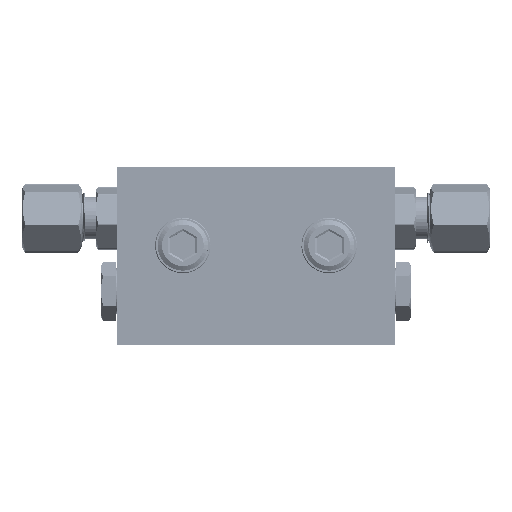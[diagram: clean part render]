
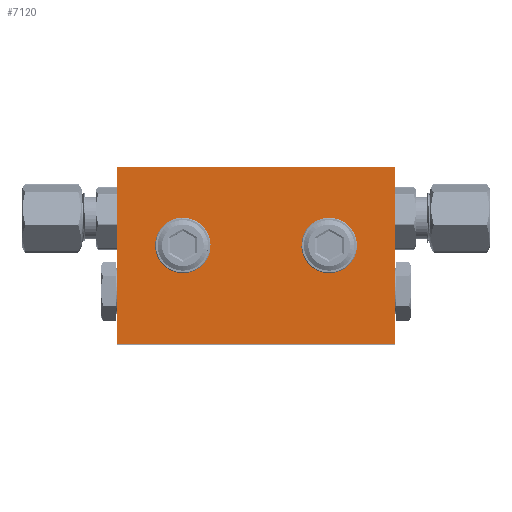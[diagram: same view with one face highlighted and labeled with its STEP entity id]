
A CAD part, top view. The second image highlights one B-rep face of the part: STEP entity #7120.
In plain terms, the highlighted planar face has unit normal (0, 0, 1) as drawn and (0, 0, -1) by its records, which use the part's own axes.
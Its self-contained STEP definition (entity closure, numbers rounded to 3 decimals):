
#786 = ORIENTED_EDGE ( 'NONE', *, *, #16114, .F. ) ;
#1280 = AXIS2_PLACEMENT_3D ( 'NONE', #5872, #42482, #12814 ) ;
#1936 = CARTESIAN_POINT ( 'NONE',  ( 27.5, -35., -4.85 ) ) ;
#2538 = ORIENTED_EDGE ( 'NONE', *, *, #15249, .F. ) ;
#2639 = DIRECTION ( 'NONE',  ( 1., 0., 0. ) ) ;
#3235 = FACE_BOUND ( 'NONE', #25266, .T. ) ;
#3318 = AXIS2_PLACEMENT_3D ( 'NONE', #11760, #8494, #21824 ) ;
#4193 = ORIENTED_EDGE ( 'NONE', *, *, #35343, .F. ) ;
#4483 = LINE ( 'NONE', #31078, #27020 ) ;
#5524 = LINE ( 'NONE', #18813, #9876 ) ;
#5863 = EDGE_LOOP ( 'NONE', ( #33927 ) ) ;
#5872 = CARTESIAN_POINT ( 'NONE',  ( -14.5, -15.5, -4.85 ) ) ;
#5961 = VERTEX_POINT ( 'NONE', #1936 ) ;
#7120 = ADVANCED_FACE ( 'NONE', ( #26514, #3235, #9968 ), #9113, .F. ) ;
#8494 = DIRECTION ( 'NONE',  ( 0., 0., -1. ) ) ;
#9113 = PLANE ( 'NONE',  #34026 ) ;
#9269 = CARTESIAN_POINT ( 'NONE',  ( -27.5, 0., -4.85 ) ) ;
#9876 = VECTOR ( 'NONE', #19676, 1000. ) ;
#9968 = FACE_OUTER_BOUND ( 'NONE', #21455, .T. ) ;
#11760 = CARTESIAN_POINT ( 'NONE',  ( 14.5, -15.5, -4.85 ) ) ;
#12814 = DIRECTION ( 'NONE',  ( 1., 0., 0. ) ) ;
#13609 = VERTEX_POINT ( 'NONE', #19130 ) ;
#13779 = VERTEX_POINT ( 'NONE', #9269 ) ;
#15179 = LINE ( 'NONE', #24390, #31270 ) ;
#15249 = EDGE_CURVE ( 'NONE', #39791, #39791, #22098, .T. ) ;
#16114 = EDGE_CURVE ( 'NONE', #38528, #5961, #19172, .T. ) ;
#18813 = CARTESIAN_POINT ( 'NONE',  ( 0., 0., -4.85 ) ) ;
#19130 = CARTESIAN_POINT ( 'NONE',  ( 27.5, 0., -4.85 ) ) ;
#19172 = LINE ( 'NONE', #28958, #34000 ) ;
#19676 = DIRECTION ( 'NONE',  ( -1., 0., 0. ) ) ;
#19782 = CARTESIAN_POINT ( 'NONE',  ( 0., 0., -4.85 ) ) ;
#21455 = EDGE_LOOP ( 'NONE', ( #786, #4193, #37059, #23162 ) ) ;
#21824 = DIRECTION ( 'NONE',  ( -1., 0., 0. ) ) ;
#22098 = CIRCLE ( 'NONE', #3318, 3.1 ) ;
#22439 = DIRECTION ( 'NONE',  ( 1., 0., 0. ) ) ;
#23135 = CARTESIAN_POINT ( 'NONE',  ( -27.5, -35., -4.85 ) ) ;
#23162 = ORIENTED_EDGE ( 'NONE', *, *, #27423, .F. ) ;
#24390 = CARTESIAN_POINT ( 'NONE',  ( -27.5, 0., -4.85 ) ) ;
#25266 = EDGE_LOOP ( 'NONE', ( #2538 ) ) ;
#26514 = FACE_BOUND ( 'NONE', #5863, .T. ) ;
#27020 = VECTOR ( 'NONE', #34131, 1000. ) ;
#27423 = EDGE_CURVE ( 'NONE', #5961, #13609, #4483, .T. ) ;
#28958 = CARTESIAN_POINT ( 'NONE',  ( 0., -35., -4.85 ) ) ;
#31078 = CARTESIAN_POINT ( 'NONE',  ( 27.5, 0., -4.85 ) ) ;
#31270 = VECTOR ( 'NONE', #37690, 1000. ) ;
#33927 = ORIENTED_EDGE ( 'NONE', *, *, #34274, .F. ) ;
#34000 = VECTOR ( 'NONE', #2639, 1000. ) ;
#34026 = AXIS2_PLACEMENT_3D ( 'NONE', #19782, #36135, #22439 ) ;
#34131 = DIRECTION ( 'NONE',  ( 0., 1., 0. ) ) ;
#34274 = EDGE_CURVE ( 'NONE', #35425, #35425, #42310, .T. ) ;
#35343 = EDGE_CURVE ( 'NONE', #13779, #38528, #15179, .T. ) ;
#35425 = VERTEX_POINT ( 'NONE', #39125 ) ;
#36135 = DIRECTION ( 'NONE',  ( 0., 0., 1. ) ) ;
#36517 = CARTESIAN_POINT ( 'NONE',  ( 11.4, -15.5, -4.85 ) ) ;
#37059 = ORIENTED_EDGE ( 'NONE', *, *, #39766, .F. ) ;
#37690 = DIRECTION ( 'NONE',  ( 0., -1., 0. ) ) ;
#38528 = VERTEX_POINT ( 'NONE', #23135 ) ;
#39125 = CARTESIAN_POINT ( 'NONE',  ( -11.4, -15.5, -4.85 ) ) ;
#39766 = EDGE_CURVE ( 'NONE', #13609, #13779, #5524, .T. ) ;
#39791 = VERTEX_POINT ( 'NONE', #36517 ) ;
#42310 = CIRCLE ( 'NONE', #1280, 3.1 ) ;
#42482 = DIRECTION ( 'NONE',  ( 0., 0., -1. ) ) ;
